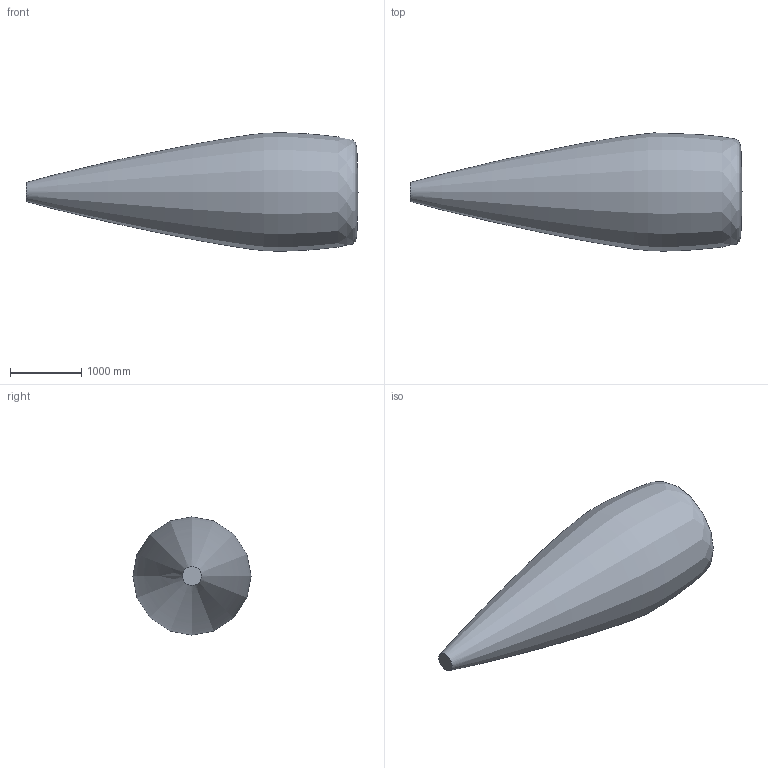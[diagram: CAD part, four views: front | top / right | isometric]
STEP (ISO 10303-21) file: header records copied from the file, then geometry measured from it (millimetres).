
FILE_DESCRIPTION((''),'2;1');
FILE_NAME('C:\Dokumente und Einstellungen\Kramp\Eigene Dateien\Microsonic Nacharbeit 2\restliche Änderungen\STP\Schallfeld Betriebstastw 3400mm Platte.stp','2005-08-11T08:22:43',('Kramp'),(''),'Autodesk Inventor 7','Autodesk Inventor 7','');
FILE_SCHEMA(('AUTOMOTIVE_DESIGN { 1 0 10303 214 1 1 1 1 }'));
Length unit declared in the file: millimetre
Products named in the file (1): Schallfeld Betriebstastw 3400mm Platte
Bounding box: 4670 x 1662.64 x 1664.65 mm (x, y, z)
Volume: 5891854895.2 mm3; surface area: 19271366.1 mm2
Topology: 1 solids, 1 shells, 2 faces, 3 edges, 2 vertices
Faces by surface type: plane 1, bspline 1
Entity records: 308 total; most frequent: CARTESIAN_POINT 255, DIRECTION 6, ORIENTED_EDGE 4, AXIS2_PLACEMENT_3D 3, VERTEX_POINT 2, EDGE_CURVE 2, EDGE_LOOP 2, FACE_OUTER_BOUND 2
